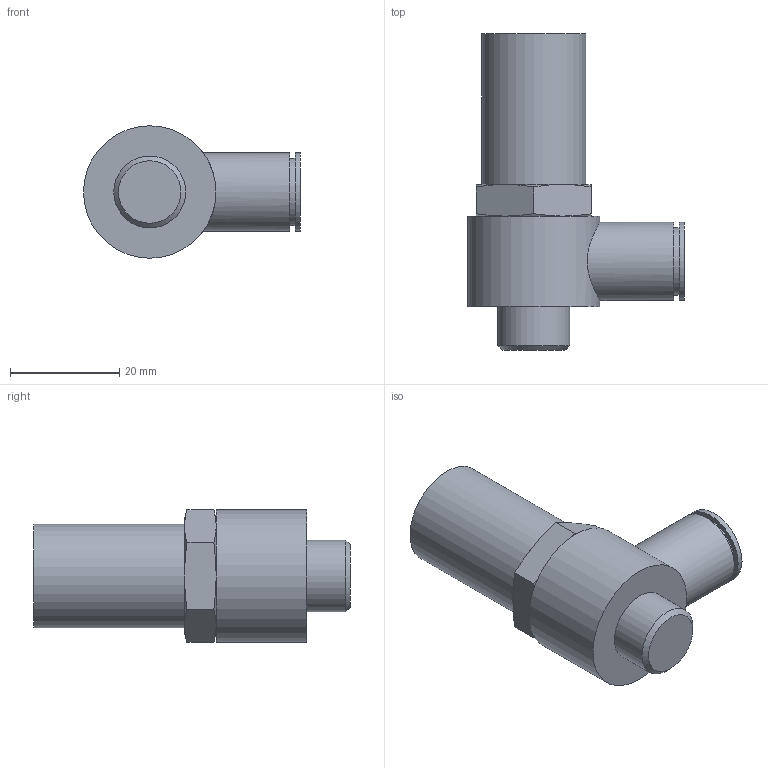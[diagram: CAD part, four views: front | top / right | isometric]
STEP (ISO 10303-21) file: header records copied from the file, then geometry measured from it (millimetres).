
FILE_DESCRIPTION(('STEP AP203'),'1');
FILE_NAME('BCVD-15-802.stp','2025-07-18T01:13:14',(' '),(' '),'Spatial InterOp 3D',' ',' ');
FILE_SCHEMA(('CONFIG_CONTROL_DESIGN'));
Length unit declared in the file: millimetre
Products named in the file (1): 1
Bounding box: 39.72 x 58 x 24.25 mm (x, y, z)
Volume: 20352.6 mm3; surface area: 5905.9 mm2
Topology: 1 solids, 1 shells, 35 faces, 66 edges, 40 vertices
Faces by surface type: plane 15, cone 13, cylinder 7
Full cylindrical faces by diameter (mm): 8 x1, 12.3 x1, 13.157 x1, 14.3 x2, 19 x1, 24.249 x1
Entity records: 909 total; most frequent: CARTESIAN_POINT 226, DIRECTION 130, ORIENTED_EDGE 114, AXIS2_PLACEMENT_3D 62, EDGE_CURVE 57, EDGE_LOOP 50, FACE_OUTER_BOUND 42, VERTEX_POINT 39
